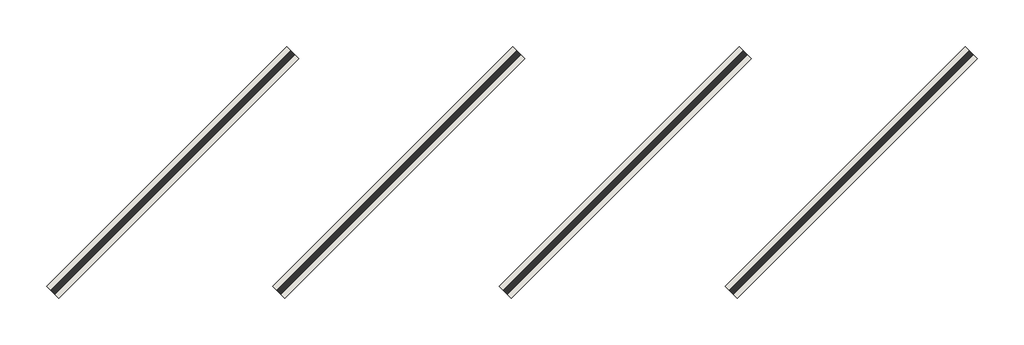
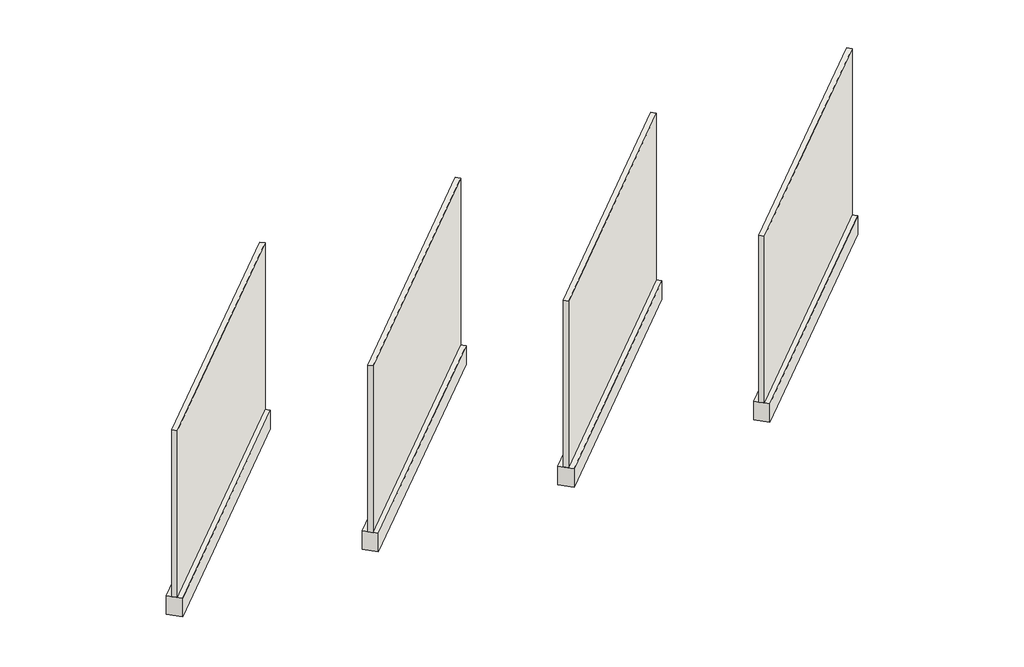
# One storey: 8 walls.
"""IFC4 building model written with IfcOpenShell, lengths in millimetres."""

from ifc_helpers import new_model, si_unit, frame, origin, origin_with_axes, place, context, project, spatial, polyline, outline, extrude, element, save

model = new_model("IFC4")

# Units and contexts
model_context = context("Model", 3, world=origin())
ifc_project = project(units=[si_unit("LENGTHUNIT", "METRE", prefix="MILLI")], contexts=[model_context])

# Site, building, storey
site = spatial("IfcSite", under=ifc_project)
building = spatial("IfcBuilding", under=site)
storey = spatial("IfcBuildingStorey", under=building, Name="Sandstone Pioneer Stone", Elevation=0.0)

# Walls
placement = place(None, origin())
element("IfcWall", 1, ObjectType="Colorado_Sandstone", at=placement, inside=storey, context=model_context, shape_type="SweptSolid", body=[
    extrude(outline(polyline([(-16771.4654192, 8506.1818358), (-20004.3576228, 5273.2896322), (-20058.2391595, 5327.1711689), (-16825.3469559, 8560.0633725), (-16771.4654192, 8506.1818358)])), frame((0.0, 0.0, 304.8), z_axis=(0.0, 0.0, 1.0), x_axis=(1.0, 0.0, 0.0)), (0.0, 0.0, 1.0), 2743.2),
])
element("IfcWall", 2, ObjectType="Nappanee_Sandstone", at=placement, inside=storey, context=model_context, shape_type="SweptSolid", body=[
    extrude(outline(polyline([(-10675.4654192, 8506.1818358), (-13908.3576228, 5273.2896322), (-13962.2391595, 5327.1711689), (-10729.3469559, 8560.0633725), (-10675.4654192, 8506.1818358)])), frame((0.0, 0.0, 304.8), z_axis=(0.0, 0.0, 1.0), x_axis=(1.0, 0.0, 0.0)), (0.0, 0.0, 1.0), 2743.2),
])
element("IfcWall", 3, ObjectType="Canyon Creek_Sandstone", at=placement, inside=storey, context=model_context, shape_type="SweptSolid", body=[
    extrude(outline(polyline([(-19819.4654192, 8506.1818358), (-23052.3576228, 5273.2896322), (-23106.2391595, 5327.1711689), (-19873.3469559, 8560.0633725), (-19819.4654192, 8506.1818358)])), frame((0.0, 0.0, 304.8), z_axis=(0.0, 0.0, 1.0), x_axis=(1.0, 0.0, 0.0)), (0.0, 0.0, 1.0), 2743.2),
])
element("IfcWall", 4, ObjectType="Dark Mist_Sandstone", at=placement, inside=storey, context=model_context, shape_type="SweptSolid", body=[
    extrude(outline(polyline([(-13723.4654192, 8506.1818358), (-16956.3576228, 5273.2896322), (-17010.2391595, 5327.1711689), (-13777.3469559, 8560.0633725), (-13723.4654192, 8506.1818358)])), frame((0.0, 0.0, 304.8), z_axis=(0.0, 0.0, 1.0), x_axis=(1.0, 0.0, 0.0)), (0.0, 0.0, 1.0), 2743.2),
])
element("IfcWall", 5, ObjectType="Generic 9\"", at=placement, inside=storey, context=model_context, shape_type="SweptSolid", body=[
    extrude(outline(polyline([(-19765.5838825, 8452.3002991), (-22998.4760861, 5219.4080955), (-23160.1206962, 5381.0527057), (-19927.2284927, 8613.9449092), (-19765.5838825, 8452.3002991)])), origin_with_axes(), (0.0, 0.0, 1.0), 304.8),
])
element("IfcWall", 6, ObjectType="Generic 9\"", at=placement, inside=storey, context=model_context, shape_type="SweptSolid", body=[
    extrude(outline(polyline([(-16717.5838825, 8452.3002991), (-19950.4760861, 5219.4080955), (-20112.1206962, 5381.0527057), (-16879.2284927, 8613.9449092), (-16717.5838825, 8452.3002991)])), origin_with_axes(), (0.0, 0.0, 1.0), 304.8),
])
element("IfcWall", 7, ObjectType="Generic 9\"", at=placement, inside=storey, context=model_context, shape_type="SweptSolid", body=[
    extrude(outline(polyline([(-13669.5838825, 8452.3002991), (-16902.4760861, 5219.4080955), (-17064.1206962, 5381.0527057), (-13831.2284927, 8613.9449092), (-13669.5838825, 8452.3002991)])), origin_with_axes(), (0.0, 0.0, 1.0), 304.8),
])
element("IfcWall", 8, ObjectType="Generic 9\"", at=placement, inside=storey, context=model_context, shape_type="SweptSolid", body=[
    extrude(outline(polyline([(-10621.5838825, 8452.3002991), (-13854.4760861, 5219.4080955), (-14016.1206962, 5381.0527057), (-10783.2284927, 8613.9449092), (-10621.5838825, 8452.3002991)])), origin_with_axes(), (0.0, 0.0, 1.0), 304.8),
])

save(model, "model.ifc")
